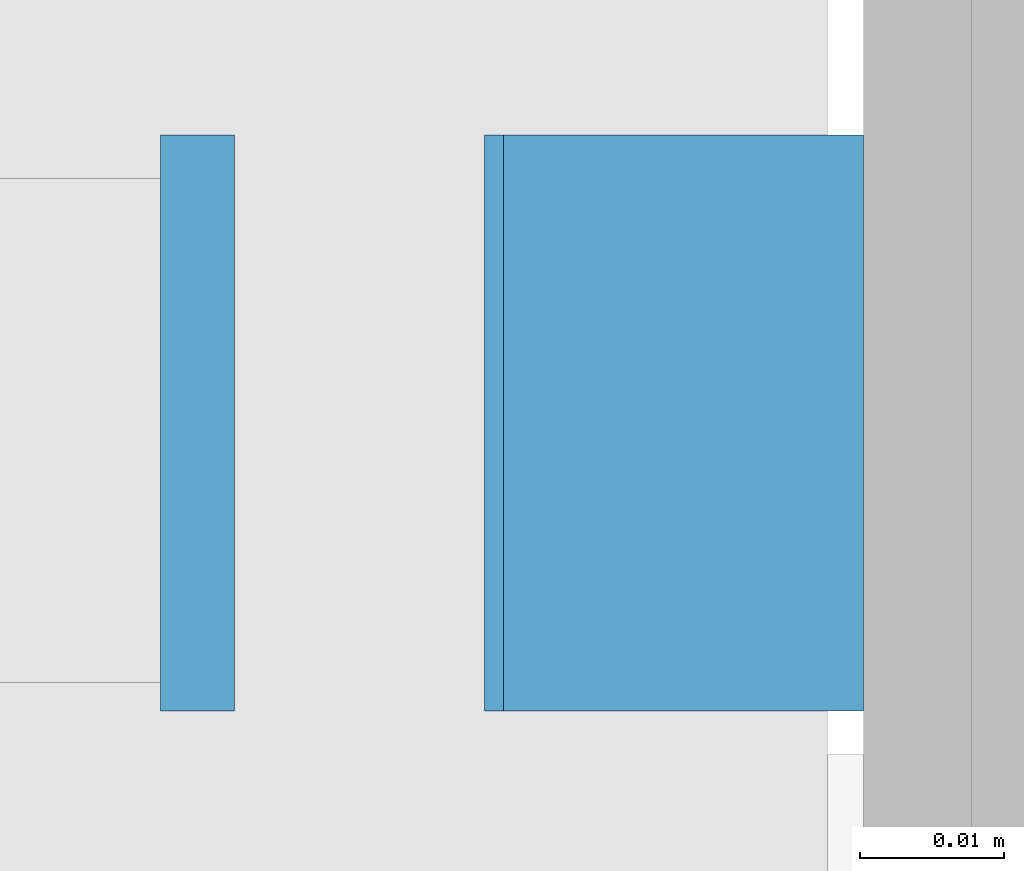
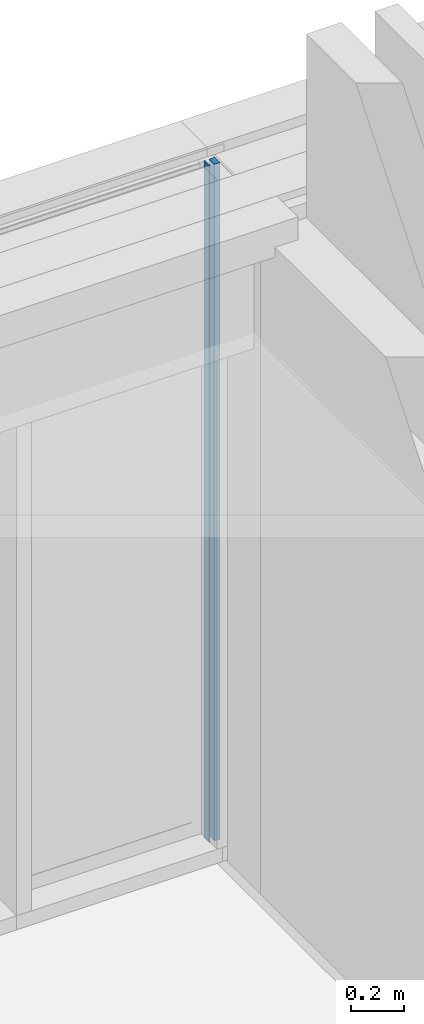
# One storey, part 62 of 240: 3 plates, 1 element without a shape of its own.
"""IFC2X3 building model written with IfcOpenShell, lengths in centimetres."""

import ifcopenshell
import ifcopenshell.guid

model = None  # the IFC model being written
_history = None  # IfcOwnerHistory: only IFC2X3 demands one
_inside = {}  # id of a spatial element -> (the spatial element, [elements in it])
_under = {}  # id of a project, library or spatial element -> (it, [spatial elements below it])
_declared = {}  # id of a project -> (the project, [libraries it declares])
_typed = {}  # id of a type object -> (the type object, [elements of that type])
_made_of = {}  # id of a material, layer set ... -> (it, [elements and type objects made of it])


def new_model(schema):
    """Start an empty IFC model of exactly this schema.

    Asked for "IFC4X3", IfcOpenShell would pick the latest addendum, in which some entities
    have other attributes; the version numbers below select the first issue.
    IFC2X3 requires an IfcOwnerHistory on every rooted entity: one is made here for all.
    """
    global model, _history
    if schema == "IFC4X3":
        model = ifcopenshell.file(schema_version=(4, 3, 0, 0))
    else:
        model = ifcopenshell.file(schema=schema)
    _inside.clear()
    _under.clear()
    _declared.clear()
    _typed.clear()
    _made_of.clear()
    _history = None
    if model.schema == "IFC2X3":
        org = make("IfcOrganization", Name="unknown")
        user = make(
            "IfcPersonAndOrganization",
            ThePerson=make("IfcPerson", FamilyName="unknown"),
            TheOrganization=org,
        )
        app = make(
            "IfcApplication",
            ApplicationDeveloper=org,
            Version="unknown",
            ApplicationFullName="unknown",
            ApplicationIdentifier="unknown",
        )
        _history = make(
            "IfcOwnerHistory",
            OwningUser=user,
            OwningApplication=app,
            ChangeAction="ADDED",
            CreationDate=0,
        )
    return model


def make(cls, **values):
    """One entity of the class cls with the attributes given. An attribute that is None is left unset."""
    return model.create_entity(
        cls, **{name: value for name, value in values.items() if value is not None}
    )


def entity(cls, *values):
    """Any entity or typed value of the class cls, its attributes in the order of the schema. None: left unset."""
    e = model.create_entity(cls)
    for i, value in enumerate(values):
        if value is not None:
            e[i] = value
    return e


def rooted(cls, **values):
    """An entity with a GlobalId (a new one), such as an element, a storey or a relation."""
    return make(cls, GlobalId=ifcopenshell.guid.new(), OwnerHistory=_history, **values)


def si_unit(unit_type, name, prefix=None):
    """IfcSIUnit, for example si_unit("LENGTHUNIT", "METRE", prefix="MILLI")."""
    return make("IfcSIUnit", UnitType=unit_type, Prefix=prefix, Name=name)


def converted_unit(unit_type, name, factor, base, dimensions=None, offset=None):
    """IfcConversionBasedUnit, such as the inch: factor (a typed value) times the base unit."""
    return make(
        "IfcConversionBasedUnit"
        if offset is None
        else "IfcConversionBasedUnitWithOffset",
        ConversionOffset=offset,
        Dimensions=None
        if dimensions is None
        else entity("IfcDimensionalExponents", *dimensions),
        UnitType=unit_type,
        Name=name,
        ConversionFactor=make(
            "IfcMeasureWithUnit", ValueComponent=factor, UnitComponent=base
        ),
    )


def derived_unit(unit_type, elements):
    """IfcDerivedUnit: a product of units, each with its exponent."""
    return make(
        "IfcDerivedUnit",
        Elements=[
            make("IfcDerivedUnitElement", Unit=unit, Exponent=power)
            for unit, power in elements
        ],
        UnitType=unit_type,
    )


def assignment(units):
    """IfcUnitAssignment: the units of a project."""
    return None if units is None else make("IfcUnitAssignment", Units=units)


def point(xyz):
    """IfcCartesianPoint."""
    return None if xyz is None else make("IfcCartesianPoint", Coordinates=xyz)


def direction(xyz):
    """IfcDirection."""
    return None if xyz is None else make("IfcDirection", DirectionRatios=xyz)


def frame(location, z_axis=None, x_axis=None):
    """IfcAxis2Placement3D, a coordinate frame: its origin and axes. An axis left out is left unset."""
    return make(
        "IfcAxis2Placement3D",
        Location=point(location),
        Axis=direction(z_axis),
        RefDirection=direction(x_axis),
    )


def frame_2d(location, x_axis=None):
    """IfcAxis2Placement2D, a coordinate frame in the plane: its origin and x axis."""
    return make(
        "IfcAxis2Placement2D", Location=point(location), RefDirection=direction(x_axis)
    )


def origin():
    """The frame at (0, 0, 0) with its axes left unset."""
    return frame((0.0, 0.0, 0.0))


def origin_2d_with_axis():
    """The frame at (0, 0) in the plane with the x axis (1, 0) written out."""
    return frame_2d((0.0, 0.0), x_axis=(1.0, 0.0))


def place(relative_to, where):
    """IfcLocalPlacement: puts the frame where relative to a parent placement (None: the world)."""
    return make(
        "IfcLocalPlacement", PlacementRelTo=relative_to, RelativePlacement=where
    )


def context(
    kind, dimensions, precision=None, world=None, true_north=None, identifier=None
):
    """IfcGeometricRepresentationContext, for example the 3D "Model" context."""
    return make(
        "IfcGeometricRepresentationContext",
        ContextIdentifier=identifier,
        ContextType=kind,
        CoordinateSpaceDimension=dimensions,
        Precision=precision,
        WorldCoordinateSystem=world,
        TrueNorth=true_north,
    )


def subcontext(parent, identifier, kind, view, scale=None):
    """IfcGeometricRepresentationSubContext, for example "Body" below "Model"."""
    return make(
        "IfcGeometricRepresentationSubContext",
        ContextIdentifier=identifier,
        ContextType=kind,
        ParentContext=parent,
        TargetScale=scale,
        TargetView=view,
    )


def project(units=None, contexts=None):
    """IfcProject with its units and contexts."""
    return rooted(
        "IfcProject",
        Name="project",
        RepresentationContexts=contexts,
        UnitsInContext=assignment(units),
    )


def spatial(cls, under=None, at=None, **own):
    """A site, building, storey or space (cls), placed at a placement, below another one or the project."""
    s = rooted(cls, ObjectPlacement=at, **own)
    if under is not None:
        _under.setdefault(under.id(), (under, []))[1].append(s)
    return s


def profile(cls, at=None, kind="AREA", **sizes):
    """A parametric profile (cls). Its sizes go by their IFC names, for example OverallWidth=200.0."""
    return make(cls, ProfileType=kind, Position=at, **sizes)


def rectangle(**sizes):
    """IfcRectangleProfileDef."""
    return profile("IfcRectangleProfileDef", **sizes)


def extrude(swept, where, along, depth):
    """IfcExtrudedAreaSolid: the profile swept, set in the frame where, extruded along a direction by depth."""
    return make(
        "IfcExtrudedAreaSolid",
        SweptArea=swept,
        Position=where,
        ExtrudedDirection=direction(along),
        Depth=depth,
    )


def shape(context_of_items, identifier, shape_type, items):
    """IfcShapeRepresentation: the items that make up one representation, for example the "Body"."""
    return make(
        "IfcShapeRepresentation",
        ContextOfItems=context_of_items,
        RepresentationIdentifier=identifier,
        RepresentationType=shape_type,
        Items=items,
    )


def source(mapping_origin, context_of_items, identifier, shape_type, items):
    """IfcRepresentationMap: a shape defined once, which mapped items show again and again."""
    return make(
        "IfcRepresentationMap",
        MappingOrigin=mapping_origin,
        MappedRepresentation=shape(context_of_items, identifier, shape_type, items),
    )


def transform(
    local_origin,
    x_axis=None,
    y_axis=None,
    z_axis=None,
    scale=None,
    scale2=None,
    scale3=None,
    uniform=True,
):
    """IfcCartesianTransformationOperator3D, or its non-uniform kind. x_axis, y_axis, z_axis: its Axis1, 2, 3."""
    if uniform:
        return make(
            "IfcCartesianTransformationOperator3D",
            Axis1=direction(x_axis),
            Axis2=direction(y_axis),
            LocalOrigin=point(local_origin),
            Scale=scale,
            Axis3=direction(z_axis),
        )
    return make(
        "IfcCartesianTransformationOperator3DnonUniform",
        Axis1=direction(x_axis),
        Axis2=direction(y_axis),
        LocalOrigin=point(local_origin),
        Scale=scale,
        Axis3=direction(z_axis),
        Scale2=scale2,
        Scale3=scale3,
    )


def mapped(mapping_source, mapping_target):
    """IfcMappedItem: shows the shape of a source again, moved by a transform."""
    return make(
        "IfcMappedItem", MappingSource=mapping_source, MappingTarget=mapping_target
    )


def material(Name=None, Category=None):
    """IfcMaterial."""
    return make("IfcMaterial", Name=Name, Category=Category)


def layer(
    of_material, thickness, ventilated=None, Name=None, Category=None, Priority=None
):
    """IfcMaterialLayer: one layer of a wall or slab, of a material (None: an air gap)."""
    return make(
        "IfcMaterialLayer",
        Material=of_material,
        LayerThickness=thickness,
        IsVentilated=ventilated,
        Name=Name,
        Category=Category,
        Priority=Priority,
    )


def layer_set(layers, Name=None):
    """IfcMaterialLayerSet."""
    return make("IfcMaterialLayerSet", MaterialLayers=layers, LayerSetName=Name)


def layer_usage(for_layer_set, set_direction, sense, offset, extent=None):
    """IfcMaterialLayerSetUsage: how a layer set lies in its element."""
    return make(
        "IfcMaterialLayerSetUsage",
        ForLayerSet=for_layer_set,
        LayerSetDirection=set_direction,
        DirectionSense=sense,
        OffsetFromReferenceLine=offset,
        ReferenceExtent=extent,
    )


def made_of(thing, what):
    """Note that an element or type object is made of a material, layer set ...; save() writes the relation."""
    if what is not None:
        _made_of.setdefault(what.id(), (what, []))[1].append(thing)
    return thing


def type_object(cls, material=None, **own):
    """A type object (cls), such as IfcWallType, which elements share."""
    return made_of(rooted(cls, **own), material)


def type_shapes(of_type, sources):
    """Give a type object the sources (RepresentationMaps) that its elements show as mapped items."""
    of_type.RepresentationMaps = sources


def element(
    cls,
    number,
    at=None,
    inside=None,
    cuts=None,
    type_object=None,
    material=None,
    context=None,
    identifier="Body",
    shape_type=None,
    held_by="IfcProductDefinitionShape",
    body=None,
    shapes=None,
    **own,
):
    """One element of the class cls, such as IfcWall. Its Tag is "e" and its number.

    at: its placement. inside: the storey or other place that contains it. cuts: it is an
    opening in that element (IfcRelVoidsElement). A single representation is given by context,
    identifier, shape_type and body (its items); several are given by shapes. held_by: the class
    of the entity that holds the representations. save() writes the other relations.
    """
    e = rooted(cls, Tag="e%d" % number, ObjectPlacement=at, **own)
    if body is not None:
        shapes = [shape(context, identifier, shape_type, body)]
    if shapes is not None:
        e.Representation = make(held_by, Representations=shapes)
    if inside is not None:
        _inside.setdefault(inside.id(), (inside, []))[1].append(e)
    if cuts is not None:
        rooted(
            "IfcRelVoidsElement", RelatingBuildingElement=cuts, RelatedOpeningElement=e
        )
    if type_object is not None:
        _typed.setdefault(type_object.id(), (type_object, []))[1].append(e)
    return made_of(e, material)


def aggregate(whole, parts):
    """IfcRelAggregates: a whole, such as a stair, and the parts it consists of."""
    return rooted("IfcRelAggregates", RelatingObject=whole, RelatedObjects=parts)


def save(model, path):
    """Write the relations noted so far, then the file.

    IfcRelAggregates (storeys below a building ...), IfcRelContainedInSpatialStructure (elements
    in a storey), IfcRelDefinesByType, IfcRelAssociatesMaterial and IfcRelDeclares: one each for
    every whole, place, type object, material and project.
    """
    for whole, parts in _under.values():
        aggregate(whole, parts)
    for where, things in _inside.values():
        rooted(
            "IfcRelContainedInSpatialStructure",
            RelatedElements=things,
            RelatingStructure=where,
        )
    for kind, things in _typed.values():
        rooted("IfcRelDefinesByType", RelatedObjects=things, RelatingType=kind)
    for what, things in _made_of.values():
        rooted("IfcRelAssociatesMaterial", RelatedObjects=things, RelatingMaterial=what)
    for by, libraries in _declared.values():
        rooted("IfcRelDeclares", RelatingContext=by, RelatedDefinitions=libraries)
    model.write(path)


model = new_model("IFC2X3")

# Units and contexts
model_context = context("Model", 3, precision=0.001, world=origin(), true_north=direction((6.12303176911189e-17, 1.0)))
body_context = subcontext(model_context, "Body", "Model", "MODEL_VIEW")
ifc_project = project(units=[si_unit("LENGTHUNIT", "METRE", prefix="CENTI"), si_unit("AREAUNIT", "SQUARE_METRE"), si_unit("VOLUMEUNIT", "CUBIC_METRE"), converted_unit("PLANEANGLEUNIT", "DEGREE", entity("IfcRatioMeasure", 0.0174532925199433), si_unit("PLANEANGLEUNIT", "RADIAN"), dimensions=[0, 0, 0, 0, 0, 0, 0]), si_unit("MASSUNIT", "GRAM", prefix="KILO"), derived_unit("MASSDENSITYUNIT", [(si_unit("MASSUNIT", "GRAM", prefix="KILO"), 1), (si_unit("LENGTHUNIT", "METRE"), -3)]), si_unit("TIMEUNIT", "SECOND"), si_unit("FREQUENCYUNIT", "HERTZ"), si_unit("THERMODYNAMICTEMPERATUREUNIT", "DEGREE_CELSIUS"), derived_unit("THERMALTRANSMITTANCEUNIT", [(si_unit("MASSUNIT", "GRAM", prefix="KILO"), 1), (si_unit("THERMODYNAMICTEMPERATUREUNIT", "KELVIN"), -1), (si_unit("TIMEUNIT", "SECOND"), -3)]), derived_unit("VOLUMETRICFLOWRATEUNIT", [(si_unit("LENGTHUNIT", "METRE"), 3), (si_unit("TIMEUNIT", "SECOND"), -1)]), si_unit("ELECTRICCURRENTUNIT", "AMPERE"), si_unit("ELECTRICVOLTAGEUNIT", "VOLT"), si_unit("POWERUNIT", "WATT"), si_unit("FORCEUNIT", "NEWTON", prefix="KILO"), si_unit("ILLUMINANCEUNIT", "LUX"), si_unit("LUMINOUSFLUXUNIT", "LUMEN"), si_unit("LUMINOUSINTENSITYUNIT", "CANDELA"), derived_unit("USERDEFINED", [(si_unit("MASSUNIT", "GRAM", prefix="KILO"), -1), (si_unit("LENGTHUNIT", "METRE"), -2), (si_unit("TIMEUNIT", "SECOND"), 3), (si_unit("LUMINOUSFLUXUNIT", "LUMEN"), 1)]), derived_unit("LINEARVELOCITYUNIT", [(si_unit("LENGTHUNIT", "METRE"), 1), (si_unit("TIMEUNIT", "SECOND"), -1)]), si_unit("PRESSUREUNIT", "PASCAL"), derived_unit("USERDEFINED", [(si_unit("LENGTHUNIT", "METRE"), -2), (si_unit("MASSUNIT", "GRAM", prefix="KILO"), 1), (si_unit("TIMEUNIT", "SECOND"), -2)])], contexts=[model_context])

# Site, building, storey
site_placement = place(None, frame((-2781.94577612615, 7442.24238424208, 0.0)))
site = spatial("IfcSite", under=ifc_project, at=site_placement, Name="Default", CompositionType="ELEMENT")
building_placement = place(site_placement, origin())
building = spatial("IfcBuilding", under=site, at=building_placement, CompositionType="ELEMENT")
storey_placement = place(building_placement, origin())
storey = spatial("IfcBuildingStorey", under=building, at=storey_placement, Name="N00 - COO", CompositionType="ELEMENT", Elevation=0.0)

# Curtain wall, plates
curtain_wall_type = type_object("IfcCurtainWallType", Name="Mur-rideau:07 - mur rideau trame 280 cm", PredefinedType="NOTDEFINED")
curtain_wall_placement = place(building_placement, origin())
curtain_wall = element("IfcCurtainWall", 1, at=curtain_wall_placement, inside=storey, type_object=curtain_wall_type, Name="Mur-rideau:07 - mur rideau trame 280 cm", ObjectType="Mur-rideau:07 - mur rideau trame 280 cm")
ifc_material = material(Name="Verre")
ifc_layer = layer(ifc_material, 4.0)
ifc_layer_set = layer_set([ifc_layer], Name="Panneau système:Vitré")
ifc_layer_usage_1 = layer_usage(ifc_layer_set, "AXIS3", "POSITIVE", 0.0)
plate_type_1 = type_object("IfcPlateType", Name="Vitré", PredefinedType="CURTAIN_PANEL", material=ifc_layer_set)
shared_shape_1 = source(origin(), body_context, "Body", "SweptSolid", [
    extrude(rectangle(XDim=4.0, YDim=0.51249996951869, at=origin_2d_with_axis()), frame((0.0, 0.0, 0.0), z_axis=(0.0, 0.0, 1.0), x_axis=(0.0, 1.0, 0.0)), (0.0, 0.0, 1.0), 313.0),
])
type_shapes(plate_type_1, [shared_shape_1])
plate_1_placement = place(curtain_wall_placement, frame((-8429.12487765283, 26.3000000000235, 0.0)))
plate_1 = element("IfcPlate", 2, at=plate_1_placement, type_object=plate_type_1, material=ifc_layer_usage_1, Name="Panneau système:Vitré", ObjectType="Panneau système:Vitré", context=body_context, shape_type="MappedRepresentation", body=[
    mapped(shared_shape_1, transform((0.0, 0.0, 0.0), scale=1.0)),
])
ifc_layer_usage_2 = layer_usage(ifc_layer_set, "AXIS3", "POSITIVE", 0.0)
plate_type_2 = type_object("IfcPlateType", Name="Vitré", PredefinedType="CURTAIN_PANEL", material=ifc_layer_set)
shared_shape_2 = source(origin(), body_context, "Body", "SweptSolid", [
    extrude(rectangle(XDim=4.0, YDim=0.131249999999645, at=origin_2d_with_axis()), frame((0.0, 0.0, 0.0), z_axis=(0.0, 0.0, 1.0), x_axis=(0.0, 1.0, 0.0)), (0.0, 0.0, 1.0), 313.0),
])
type_shapes(plate_type_2, [shared_shape_2])
plate_2_placement = place(curtain_wall_placement, frame((-8427.06550266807, 26.3000000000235, 0.0)))
plate_2 = element("IfcPlate", 3, at=plate_2_placement, type_object=plate_type_2, material=ifc_layer_usage_2, Name="Panneau système:Vitré", ObjectType="Panneau système:Vitré", context=body_context, shape_type="MappedRepresentation", body=[
    mapped(shared_shape_2, transform((0.0, 0.0, 0.0), scale=1.0)),
])
ifc_layer_usage_3 = layer_usage(ifc_layer_set, "AXIS3", "POSITIVE", 0.0)
plate_type_3 = type_object("IfcPlateType", Name="Vitré", PredefinedType="CURTAIN_PANEL", material=ifc_layer_set)
shared_shape_3 = source(origin(), body_context, "Body", "SweptSolid", [
    extrude(rectangle(XDim=4.0, YDim=2.49999999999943, at=origin_2d_with_axis()), frame((0.0, 0.0, 0.0), z_axis=(0.0, 0.0, 1.0), x_axis=(0.0, 1.0, 0.0)), (0.0, 0.0, 1.0), 313.0),
])
type_shapes(plate_type_3, [shared_shape_3])
plate_3_placement = place(curtain_wall_placement, frame((-8425.74987766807, 26.3000000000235, 0.0)))
plate_3 = element("IfcPlate", 4, at=plate_3_placement, type_object=plate_type_3, material=ifc_layer_usage_3, Name="Panneau système:Vitré", ObjectType="Panneau système:Vitré", context=body_context, shape_type="MappedRepresentation", body=[
    mapped(shared_shape_3, transform((0.0, 0.0, 0.0), scale=1.0)),
])
aggregate(curtain_wall, [plate_1, plate_2, plate_3])

save(model, "model.ifc")
